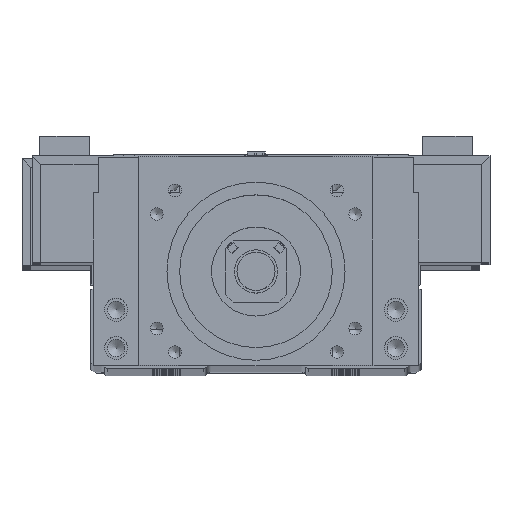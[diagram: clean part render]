
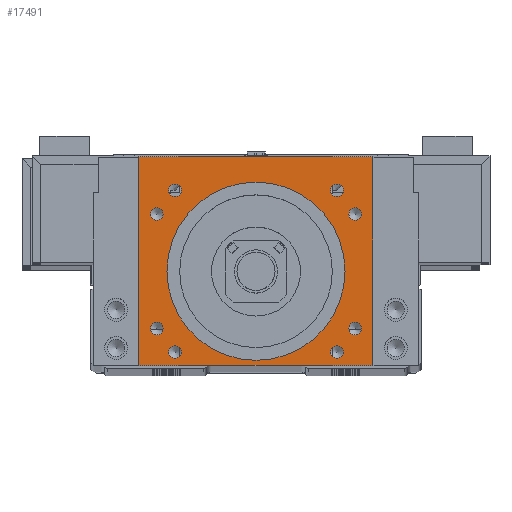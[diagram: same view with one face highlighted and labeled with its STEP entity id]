
A CAD part, top view. The second image highlights one B-rep face of the part: STEP entity #17491.
In plain terms, the highlighted planar face has unit normal (0, 0, 1).
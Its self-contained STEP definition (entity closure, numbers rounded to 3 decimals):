
#1811=CIRCLE('',#59153,35.015);
#1812=CIRCLE('',#59155,2.5);
#1813=CIRCLE('',#59156,2.5);
#1814=CIRCLE('',#59157,2.5);
#1815=CIRCLE('',#59158,2.5);
#1816=CIRCLE('',#59159,2.5);
#1817=CIRCLE('',#59160,2.5);
#1818=CIRCLE('',#59161,2.5);
#1819=CIRCLE('',#59162,2.5);
#2582=FACE_BOUND('',#26978,.T.);
#2583=FACE_BOUND('',#26979,.T.);
#2584=FACE_BOUND('',#26980,.T.);
#2585=FACE_BOUND('',#26981,.T.);
#2586=FACE_BOUND('',#26982,.T.);
#2587=FACE_BOUND('',#26983,.T.);
#2588=FACE_BOUND('',#26984,.T.);
#2589=FACE_BOUND('',#26985,.T.);
#2590=FACE_BOUND('',#26986,.T.);
#2591=FACE_BOUND('',#26987,.T.);
#3507=LINE('',#78619,#10390);
#4012=LINE('',#80849,#10895);
#4017=LINE('',#80857,#10900);
#4022=LINE('',#80866,#10905);
#10390=VECTOR('',#62905,1.);
#10895=VECTOR('',#64796,1.);
#10900=VECTOR('',#64807,1.);
#10905=VECTOR('',#64814,1.);
#17491=ADVANCED_FACE('',(#2582,#2583,#2584,#2585,#2586,#2587,#2588,#2589,
#2590,#2591),#20680,.T.);
#20680=PLANE('',#59163);
#26978=EDGE_LOOP('',(#32567,#32568,#32569,#32570));
#26979=EDGE_LOOP('',(#32571));
#26980=EDGE_LOOP('',(#32572));
#26981=EDGE_LOOP('',(#32573));
#26982=EDGE_LOOP('',(#32574));
#26983=EDGE_LOOP('',(#32575));
#26984=EDGE_LOOP('',(#32576));
#26985=EDGE_LOOP('',(#32577));
#26986=EDGE_LOOP('',(#32578));
#26987=EDGE_LOOP('',(#32579));
#32567=ORIENTED_EDGE('',*,*,#51660,.T.);
#32568=ORIENTED_EDGE('',*,*,#50773,.T.);
#32569=ORIENTED_EDGE('',*,*,#51655,.T.);
#32570=ORIENTED_EDGE('',*,*,#51665,.T.);
#32571=ORIENTED_EDGE('',*,*,#51673,.F.);
#32572=ORIENTED_EDGE('',*,*,#51674,.T.);
#32573=ORIENTED_EDGE('',*,*,#51675,.T.);
#32574=ORIENTED_EDGE('',*,*,#51676,.F.);
#32575=ORIENTED_EDGE('',*,*,#51672,.F.);
#32576=ORIENTED_EDGE('',*,*,#51677,.T.);
#32577=ORIENTED_EDGE('',*,*,#51678,.T.);
#32578=ORIENTED_EDGE('',*,*,#51679,.T.);
#32579=ORIENTED_EDGE('',*,*,#51680,.T.);
#45839=VERTEX_POINT('',#78618);
#45840=VERTEX_POINT('',#78620);
#46492=VERTEX_POINT('',#80847);
#46494=VERTEX_POINT('',#80858);
#46500=VERTEX_POINT('',#80882);
#46501=VERTEX_POINT('',#80885);
#46502=VERTEX_POINT('',#80887);
#46503=VERTEX_POINT('',#80889);
#46504=VERTEX_POINT('',#80891);
#46505=VERTEX_POINT('',#80893);
#46506=VERTEX_POINT('',#80895);
#46507=VERTEX_POINT('',#80897);
#46508=VERTEX_POINT('',#80899);
#50773=EDGE_CURVE('',#45840,#45839,#3507,.T.);
#51655=EDGE_CURVE('',#45839,#46492,#4012,.T.);
#51660=EDGE_CURVE('',#46494,#45840,#4017,.T.);
#51665=EDGE_CURVE('',#46492,#46494,#4022,.T.);
#51672=EDGE_CURVE('',#46500,#46500,#1811,.T.);
#51673=EDGE_CURVE('',#46501,#46501,#1812,.T.);
#51674=EDGE_CURVE('',#46502,#46502,#1813,.T.);
#51675=EDGE_CURVE('',#46503,#46503,#1814,.T.);
#51676=EDGE_CURVE('',#46504,#46504,#1815,.T.);
#51677=EDGE_CURVE('',#46505,#46505,#1816,.T.);
#51678=EDGE_CURVE('',#46506,#46506,#1817,.T.);
#51679=EDGE_CURVE('',#46507,#46507,#1818,.T.);
#51680=EDGE_CURVE('',#46508,#46508,#1819,.T.);
#59153=AXIS2_PLACEMENT_3D('',#80881,#64833,#64834);
#59155=AXIS2_PLACEMENT_3D('',#80884,#64837,#64838);
#59156=AXIS2_PLACEMENT_3D('',#80886,#64839,#64840);
#59157=AXIS2_PLACEMENT_3D('',#80888,#64841,#64842);
#59158=AXIS2_PLACEMENT_3D('',#80890,#64843,#64844);
#59159=AXIS2_PLACEMENT_3D('',#80892,#64845,#64846);
#59160=AXIS2_PLACEMENT_3D('',#80894,#64847,#64848);
#59161=AXIS2_PLACEMENT_3D('',#80896,#64849,#64850);
#59162=AXIS2_PLACEMENT_3D('',#80898,#64851,#64852);
#59163=AXIS2_PLACEMENT_3D('',#80900,#64853,#64854);
#62905=DIRECTION('',(-1.,0.,0.));
#64796=DIRECTION('',(0.,-1.,0.));
#64807=DIRECTION('',(0.,1.,0.));
#64814=DIRECTION('',(1.,0.,0.));
#64833=DIRECTION('',(0.,0.,1.));
#64834=DIRECTION('',(1.,0.,0.));
#64837=DIRECTION('',(0.,0.,1.));
#64838=DIRECTION('',(-1.,0.,0.));
#64839=DIRECTION('',(0.,0.,-1.));
#64840=DIRECTION('',(1.,0.,0.));
#64841=DIRECTION('',(0.,0.,-1.));
#64842=DIRECTION('',(1.,0.,0.));
#64843=DIRECTION('',(0.,0.,1.));
#64844=DIRECTION('',(-1.,0.,0.));
#64845=DIRECTION('',(0.,0.,-1.));
#64846=DIRECTION('',(1.,0.,0.));
#64847=DIRECTION('',(0.,0.,-1.));
#64848=DIRECTION('',(1.,0.,0.));
#64849=DIRECTION('',(0.,0.,-1.));
#64850=DIRECTION('',(1.,0.,0.));
#64851=DIRECTION('',(0.,0.,-1.));
#64852=DIRECTION('',(1.,0.,0.));
#64853=DIRECTION('',(0.,0.,1.));
#64854=DIRECTION('',(1.,0.,0.));
#78618=CARTESIAN_POINT('',(-46.,83.,100.));
#78619=CARTESIAN_POINT('',(0.,83.,100.));
#78620=CARTESIAN_POINT('',(46.,83.,100.));
#80847=CARTESIAN_POINT('',(-46.,1.,100.));
#80849=CARTESIAN_POINT('',(-46.,38.,100.));
#80857=CARTESIAN_POINT('',(46.,38.,100.));
#80858=CARTESIAN_POINT('',(46.,1.,100.));
#80866=CARTESIAN_POINT('',(0.,1.,100.));
#80881=CARTESIAN_POINT('',(0.,38.,100.));
#80882=CARTESIAN_POINT('',(35.015,38.,100.));
#80884=CARTESIAN_POINT('',(-38.971,15.5,100.));
#80885=CARTESIAN_POINT('',(-41.471,15.5,100.));
#80886=CARTESIAN_POINT('',(38.971,60.5,100.));
#80887=CARTESIAN_POINT('',(41.471,60.5,100.));
#80888=CARTESIAN_POINT('',(38.971,15.5,100.));
#80889=CARTESIAN_POINT('',(41.471,15.5,100.));
#80890=CARTESIAN_POINT('',(-38.971,60.5,100.));
#80891=CARTESIAN_POINT('',(-41.471,60.5,100.));
#80892=CARTESIAN_POINT('',(-31.82,69.82,100.));
#80893=CARTESIAN_POINT('',(-29.32,69.82,100.));
#80894=CARTESIAN_POINT('',(-31.82,6.18,100.));
#80895=CARTESIAN_POINT('',(-29.32,6.18,100.));
#80896=CARTESIAN_POINT('',(31.82,6.18,100.));
#80897=CARTESIAN_POINT('',(34.32,6.18,100.));
#80898=CARTESIAN_POINT('',(31.82,69.82,100.));
#80899=CARTESIAN_POINT('',(34.32,69.82,100.));
#80900=CARTESIAN_POINT('',(0.,38.,100.));
